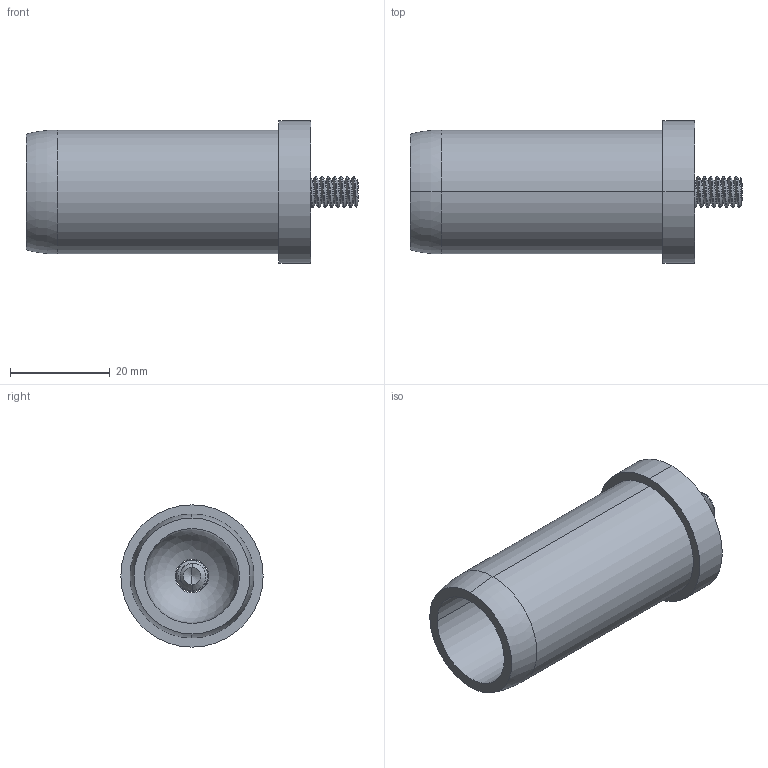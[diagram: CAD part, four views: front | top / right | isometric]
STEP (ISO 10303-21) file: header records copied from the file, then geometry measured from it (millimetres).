
FILE_DESCRIPTION (( 'STEP AP203' ), '1' );
FILE_NAME ('FDPCK-MC1-S-ENDSTUD.step', '2019-09-11T18:43:07', ( 'ydmin' ), ( '' ), 'SwSTEP 2.0', 'SolidWorks 2017', '' );
FILE_SCHEMA (( 'CONFIG_CONTROL_DESIGN' ));
Length unit declared in the file: inch
Products named in the file (1): FDPCK-MC1-S-ENDSTUD
Bounding box: 66.67 x 28.57 x 28.57 mm (x, y, z)
Volume: 15281.7 mm3; surface area: 9197 mm2
Topology: 2 solids, 2 shells, 73 faces, 184 edges, 113 vertices
Faces by surface type: cylinder 36, plane 16, cone 15, bspline 3, torus 2, sphere 1
Entity records: 4619 total; most frequent: CARTESIAN_POINT 3008, ORIENTED_EDGE 356, DIRECTION 287, EDGE_CURVE 178, AXIS2_PLACEMENT_3D 113, VERTEX_POINT 112, EDGE_LOOP 78, FACE_OUTER_BOUND 73
